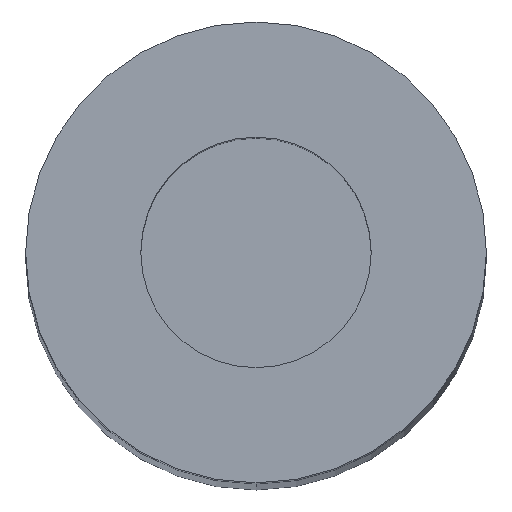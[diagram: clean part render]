
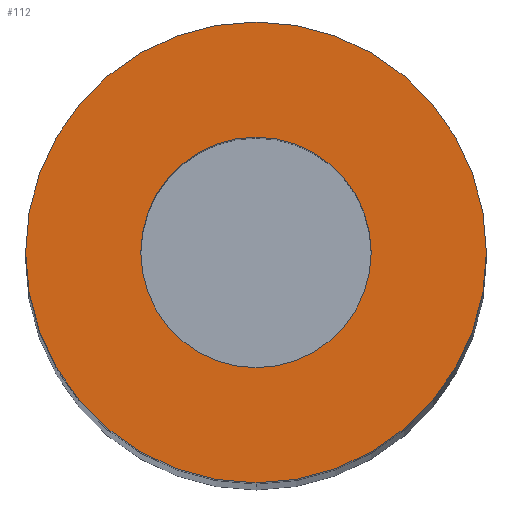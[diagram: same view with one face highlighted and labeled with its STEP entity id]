
A CAD part, top view. The second image highlights one B-rep face of the part: STEP entity #112.
In plain terms, the highlighted planar face has unit normal (0, 0, 1).
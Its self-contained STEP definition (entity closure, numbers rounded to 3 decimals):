
#99=PLANE('',#310);
#104=FACE_BOUND('',#147,.T.);
#105=FACE_BOUND('',#148,.T.);
#112=ADVANCED_FACE('',(#104,#105),#99,.T.);
#147=EDGE_LOOP('',(#191,#192));
#148=EDGE_LOOP('',(#193,#194));
#163=CIRCLE('',#302,2.5);
#166=CIRCLE('',#306,2.5);
#167=CIRCLE('',#308,5.);
#168=CIRCLE('',#309,5.);
#191=ORIENTED_EDGE('',*,*,#263,.F.);
#192=ORIENTED_EDGE('',*,*,#264,.F.);
#193=ORIENTED_EDGE('',*,*,#262,.T.);
#194=ORIENTED_EDGE('',*,*,#258,.T.);
#240=VERTEX_POINT('',#420);
#241=VERTEX_POINT('',#422);
#243=VERTEX_POINT('',#431);
#244=VERTEX_POINT('',#432);
#258=EDGE_CURVE('',#241,#240,#163,.T.);
#262=EDGE_CURVE('',#240,#241,#166,.T.);
#263=EDGE_CURVE('',#243,#244,#167,.T.);
#264=EDGE_CURVE('',#244,#243,#168,.T.);
#302=AXIS2_PLACEMENT_3D('',#421,#340,#341);
#306=AXIS2_PLACEMENT_3D('',#428,#349,#350);
#308=AXIS2_PLACEMENT_3D('',#430,#353,#354);
#309=AXIS2_PLACEMENT_3D('',#433,#355,#356);
#310=AXIS2_PLACEMENT_3D('',#434,#357,#358);
#340=DIRECTION('',(0.,0.,-1.));
#341=DIRECTION('',(1.,0.,0.));
#349=DIRECTION('',(0.,0.,-1.));
#350=DIRECTION('',(-1.,0.,0.));
#353=DIRECTION('',(0.,0.,-1.));
#354=DIRECTION('',(1.,0.,0.));
#355=DIRECTION('',(0.,0.,-1.));
#356=DIRECTION('',(-1.,0.,0.));
#357=DIRECTION('',(0.,0.,1.));
#358=DIRECTION('',(-1.,0.,0.));
#420=CARTESIAN_POINT('',(0.,2.5,0.));
#421=CARTESIAN_POINT('',(0.,0.,0.));
#422=CARTESIAN_POINT('',(0.,-2.5,0.));
#428=CARTESIAN_POINT('',(0.,0.,0.));
#430=CARTESIAN_POINT('',(0.,0.,0.));
#431=CARTESIAN_POINT('',(0.,-5.,0.));
#432=CARTESIAN_POINT('',(0.,5.,0.));
#433=CARTESIAN_POINT('',(0.,0.,0.));
#434=CARTESIAN_POINT('',(0.,0.,0.));
